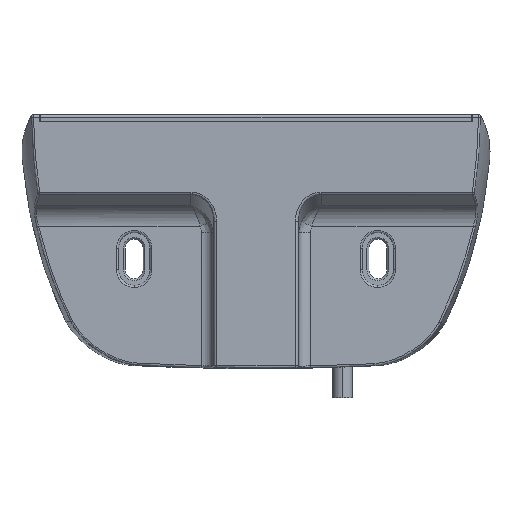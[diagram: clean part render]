
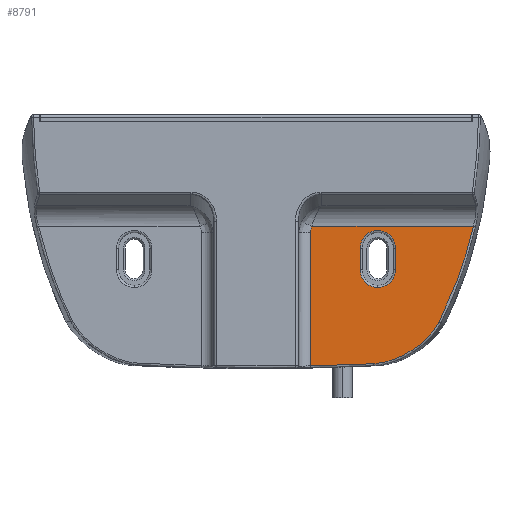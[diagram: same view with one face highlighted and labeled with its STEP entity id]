
A CAD part, front view. The second image highlights one B-rep face of the part: STEP entity #8791.
In plain terms, the highlighted planar face has unit normal (0, -1, 0).
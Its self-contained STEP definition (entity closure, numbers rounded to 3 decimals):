
#152 = VERTEX_POINT ( 'NONE', #15921 ) ;
#187 = EDGE_CURVE ( 'NONE', #15214, #19358, #1433, .T. ) ;
#207 = CARTESIAN_POINT ( 'NONE',  ( 14.005, -0.5, 0.569 ) ) ;
#286 = CARTESIAN_POINT ( 'NONE',  ( 13.897, -0.5, -34.446 ) ) ;
#366 = FACE_OUTER_BOUND ( 'NONE', #17671, .T. ) ;
#982 = CARTESIAN_POINT ( 'NONE',  ( 46.519, -0.5, -23.33 ) ) ;
#1054 = CARTESIAN_POINT ( 'NONE',  ( 45.665, -0.5, -24.809 ) ) ;
#1123 = CARTESIAN_POINT ( 'NONE',  ( 55.333, -0.5, 1.037 ) ) ;
#1138 = VERTEX_POINT ( 'NONE', #16881 ) ;
#1389 = B_SPLINE_CURVE_WITH_KNOTS ( 'NONE', 3,
 ( #5184, #16383, #13312, #5733, #18181, #10196, #16645, #18116, #14989, #4041, #13385, #17984, #8826, #13514, #8763, #8894, #5660, #1054, #19703, #982 ),
 .UNSPECIFIED., .F., .F.,
 ( 4, 2, 2, 2, 2, 2, 2, 2, 2, 4 ),
 ( 0., 0.003, 0.005, 0.006, 0.008, 0.01, 0.013, 0.015, 0.018, 0.02 ),
 .UNSPECIFIED. ) ;
#1433 = CIRCLE ( 'NONE', #1440, 4.5 ) ;
#1436 = CARTESIAN_POINT ( 'NONE',  ( 29.991, -0.5, -33.899 ) ) ;
#1440 = AXIS2_PLACEMENT_3D ( 'NONE', #11177, #12734, #12869 ) ;
#1842 = ORIENTED_EDGE ( 'NONE', *, *, #2117, .T. ) ;
#1964 = LINE ( 'NONE', #6319, #19766 ) ;
#2117 = EDGE_CURVE ( 'NONE', #19358, #1138, #1964, .T. ) ;
#2187 = EDGE_CURVE ( 'NONE', #10624, #9036, #20014, .T. ) ;
#2293 = ORIENTED_EDGE ( 'NONE', *, *, #13802, .T. ) ;
#2480 = B_SPLINE_CURVE_WITH_KNOTS ( 'NONE', 3,
 ( #5814, #8769, #16723, #10531, #5738, #1123 ),
 .UNSPECIFIED., .F., .F.,
 ( 4, 2, 4 ),
 ( 0., 0.013, 0.026 ),
 .UNSPECIFIED. ) ;
#2822 = CARTESIAN_POINT ( 'NONE',  ( 31., -0.5, -14.5 ) ) ;
#2836 = CARTESIAN_POINT ( 'NONE',  ( 24.629, -0.5, -34.153 ) ) ;
#2856 = VERTEX_POINT ( 'NONE', #2822 ) ;
#2977 = VECTOR ( 'NONE', #10229, 1000. ) ;
#3030 = PLANE ( 'NONE',  #11885 ) ;
#3570 = CARTESIAN_POINT ( 'NONE',  ( 26.5, -0.5, -10. ) ) ;
#3919 = CARTESIAN_POINT ( 'NONE',  ( 13.897, -0.5, -34.996 ) ) ;
#3982 = CIRCLE ( 'NONE', #7019, 4.5 ) ;
#4041 = CARTESIAN_POINT ( 'NONE',  ( 38.045, -0.5, -31.446 ) ) ;
#4381 = EDGE_CURVE ( 'NONE', #2856, #19485, #12521, .T. ) ;
#4522 = FACE_BOUND ( 'NONE', #8937, .T. ) ;
#4989 = CARTESIAN_POINT ( 'NONE',  ( 13.897, -0.5, 1.037 ) ) ;
#5117 = DIRECTION ( 'NONE',  ( -1., 0., 0. ) ) ;
#5184 = CARTESIAN_POINT ( 'NONE',  ( 29.991, -0.5, -33.899 ) ) ;
#5457 = ORIENTED_EDGE ( 'NONE', *, *, #2187, .T. ) ;
#5660 = CARTESIAN_POINT ( 'NONE',  ( 44.633, -0.5, -26.169 ) ) ;
#5733 = CARTESIAN_POINT ( 'NONE',  ( 33.338, -0.5, -33.369 ) ) ;
#5738 = CARTESIAN_POINT ( 'NONE',  ( 54.338, -0.5, -3.196 ) ) ;
#5814 = CARTESIAN_POINT ( 'NONE',  ( 46.519, -0.5, -23.33 ) ) ;
#5912 = CARTESIAN_POINT ( 'NONE',  ( 13.897, -0.5, -0.47 ) ) ;
#6297 = ORIENTED_EDGE ( 'NONE', *, *, #187, .T. ) ;
#6319 = CARTESIAN_POINT ( 'NONE',  ( 35.5, -0.5, -10. ) ) ;
#7019 = AXIS2_PLACEMENT_3D ( 'NONE', #17339, #15656, #18840 ) ;
#7059 = ORIENTED_EDGE ( 'NONE', *, *, #9411, .T. ) ;
#8099 = CARTESIAN_POINT ( 'NONE',  ( 29.991, -0.5, -33.899 ) ) ;
#8166 = ORIENTED_EDGE ( 'NONE', *, *, #8963, .T. ) ;
#8763 = CARTESIAN_POINT ( 'NONE',  ( 42.861, -0.5, -28.014 ) ) ;
#8769 = CARTESIAN_POINT ( 'NONE',  ( 48.503, -0.5, -19.455 ) ) ;
#8791 = ADVANCED_FACE ( 'NONE', ( #4522, #366 ), #3030, .T. ) ;
#8826 = CARTESIAN_POINT ( 'NONE',  ( 40.888, -0.5, -29.638 ) ) ;
#8894 = CARTESIAN_POINT ( 'NONE',  ( 44.065, -0.5, -26.81 ) ) ;
#8937 = EDGE_LOOP ( 'NONE', ( #6297, #1842, #10865, #19716, #12317 ) ) ;
#8963 = EDGE_CURVE ( 'NONE', #152, #18039, #12584, .T. ) ;
#9036 = VERTEX_POINT ( 'NONE', #286 ) ;
#9100 = CARTESIAN_POINT ( 'NONE',  ( 13.897, -0.5, 0.058 ) ) ;
#9261 = EDGE_CURVE ( 'NONE', #15724, #152, #2480, .T. ) ;
#9411 = EDGE_CURVE ( 'NONE', #18039, #10624, #19077, .T. ) ;
#10196 = CARTESIAN_POINT ( 'NONE',  ( 35.351, -0.5, -32.688 ) ) ;
#10229 = DIRECTION ( 'NONE',  ( 0., 0., 1. ) ) ;
#10531 = CARTESIAN_POINT ( 'NONE',  ( 53.121, -0.5, -7.348 ) ) ;
#10624 = VERTEX_POINT ( 'NONE', #5912 ) ;
#10713 = CARTESIAN_POINT ( 'NONE',  ( 35.5, -0.5, -4.5 ) ) ;
#10765 = DIRECTION ( 'NONE',  ( 0., 0., -1. ) ) ;
#10865 = ORIENTED_EDGE ( 'NONE', *, *, #18349, .T. ) ;
#10917 = VERTEX_POINT ( 'NONE', #8099 ) ;
#11149 = CARTESIAN_POINT ( 'NONE',  ( 13.897, -0.5, -0.47 ) ) ;
#11161 = DIRECTION ( 'NONE',  ( 0., 0., -1. ) ) ;
#11177 = CARTESIAN_POINT ( 'NONE',  ( 31., -0.5, -4.5 ) ) ;
#11885 = AXIS2_PLACEMENT_3D ( 'NONE', #15236, #20066, #10765 ) ;
#12317 = ORIENTED_EDGE ( 'NONE', *, *, #19921, .T. ) ;
#12487 = EDGE_CURVE ( 'NONE', #10917, #15724, #1389, .T. ) ;
#12521 = CIRCLE ( 'NONE', #15738, 4.5 ) ;
#12584 = LINE ( 'NONE', #4989, #17653 ) ;
#12734 = DIRECTION ( 'NONE',  ( 0., 1., 0. ) ) ;
#12869 = DIRECTION ( 'NONE',  ( 0., 0., -1. ) ) ;
#13312 = CARTESIAN_POINT ( 'NONE',  ( 31.687, -0.5, -33.734 ) ) ;
#13385 = CARTESIAN_POINT ( 'NONE',  ( 38.777, -0.5, -31.031 ) ) ;
#13514 = CARTESIAN_POINT ( 'NONE',  ( 42.219, -0.5, -28.582 ) ) ;
#13802 = EDGE_CURVE ( 'NONE', #9036, #10917, #14940, .T. ) ;
#13937 = CARTESIAN_POINT ( 'NONE',  ( 13.897, -0.5, -34.446 ) ) ;
#13954 = ORIENTED_EDGE ( 'NONE', *, *, #12487, .T. ) ;
#14249 = DIRECTION ( 'NONE',  ( 0., 1., 0. ) ) ;
#14807 = DIRECTION ( 'NONE',  ( 0., 0., -1. ) ) ;
#14940 = B_SPLINE_CURVE_WITH_KNOTS ( 'NONE', 3,
 ( #13937, #20084, #2836, #1436 ),
 .UNSPECIFIED., .F., .F.,
 ( 4, 4 ),
 ( 0., 0.016 ),
 .UNSPECIFIED. ) ;
#14957 = CARTESIAN_POINT ( 'NONE',  ( 26.5, -0.5, -4.5 ) ) ;
#14989 = CARTESIAN_POINT ( 'NONE',  ( 36.911, -0.5, -32.012 ) ) ;
#15214 = VERTEX_POINT ( 'NONE', #17646 ) ;
#15236 = CARTESIAN_POINT ( 'NONE',  ( 250., -0.5, 10.315 ) ) ;
#15656 = DIRECTION ( 'NONE',  ( 0., 1., 0. ) ) ;
#15724 = VERTEX_POINT ( 'NONE', #19413 ) ;
#15738 = AXIS2_PLACEMENT_3D ( 'NONE', #17248, #14249, #11161 ) ;
#15872 = VECTOR ( 'NONE', #14807, 1000. ) ;
#15921 = CARTESIAN_POINT ( 'NONE',  ( 55.333, -0.5, 1.037 ) ) ;
#16310 = CARTESIAN_POINT ( 'NONE',  ( 14.214, -0.5, 1.037 ) ) ;
#16383 = CARTESIAN_POINT ( 'NONE',  ( 30.848, -0.5, -33.858 ) ) ;
#16645 = CARTESIAN_POINT ( 'NONE',  ( 35.748, -0.5, -32.529 ) ) ;
#16723 = CARTESIAN_POINT ( 'NONE',  ( 50.202, -0.5, -15.477 ) ) ;
#16845 = CARTESIAN_POINT ( 'NONE',  ( 14.214, -0.5, 1.037 ) ) ;
#16881 = CARTESIAN_POINT ( 'NONE',  ( 35.5, -0.5, -10. ) ) ;
#16998 = ORIENTED_EDGE ( 'NONE', *, *, #9261, .T. ) ;
#17080 = DIRECTION ( 'NONE',  ( 0., 0., -1. ) ) ;
#17248 = CARTESIAN_POINT ( 'NONE',  ( 31., -0.5, -10. ) ) ;
#17339 = CARTESIAN_POINT ( 'NONE',  ( 31., -0.5, -10. ) ) ;
#17646 = CARTESIAN_POINT ( 'NONE',  ( 26.5, -0.5, -4.5 ) ) ;
#17653 = VECTOR ( 'NONE', #5117, 1000. ) ;
#17671 = EDGE_LOOP ( 'NONE', ( #5457, #2293, #13954, #16998, #8166, #7059 ) ) ;
#17984 = CARTESIAN_POINT ( 'NONE',  ( 40.199, -0.5, -30.126 ) ) ;
#18039 = VERTEX_POINT ( 'NONE', #16310 ) ;
#18116 = CARTESIAN_POINT ( 'NONE',  ( 36.527, -0.5, -32.191 ) ) ;
#18181 = CARTESIAN_POINT ( 'NONE',  ( 34.15, -0.5, -33.126 ) ) ;
#18349 = EDGE_CURVE ( 'NONE', #1138, #2856, #3982, .T. ) ;
#18840 = DIRECTION ( 'NONE',  ( 0., 0., -1. ) ) ;
#19077 =( BOUNDED_CURVE ( )  B_SPLINE_CURVE ( 3, ( #16845, #207, #9100, #11149 ),
 .UNSPECIFIED., .F., .F. ) 
 B_SPLINE_CURVE_WITH_KNOTS ( ( 4, 4 ),
 ( 1.031, 1.495 ),
 .UNSPECIFIED. ) 
 CURVE ( )  GEOMETRIC_REPRESENTATION_ITEM ( )  RATIONAL_B_SPLINE_CURVE ( ( 1., 0.982, 0.982, 1. ) ) 
 REPRESENTATION_ITEM ( '' )  );
#19358 = VERTEX_POINT ( 'NONE', #10713 ) ;
#19413 = CARTESIAN_POINT ( 'NONE',  ( 46.519, -0.5, -23.33 ) ) ;
#19485 = VERTEX_POINT ( 'NONE', #3570 ) ;
#19563 = LINE ( 'NONE', #14957, #2977 ) ;
#19703 = CARTESIAN_POINT ( 'NONE',  ( 46.13, -0.5, -24.091 ) ) ;
#19716 = ORIENTED_EDGE ( 'NONE', *, *, #4381, .T. ) ;
#19766 = VECTOR ( 'NONE', #17080, 1000. ) ;
#19921 = EDGE_CURVE ( 'NONE', #19485, #15214, #19563, .T. ) ;
#20014 = LINE ( 'NONE', #3919, #15872 ) ;
#20066 = DIRECTION ( 'NONE',  ( 0., -1., 0. ) ) ;
#20084 = CARTESIAN_POINT ( 'NONE',  ( 19.264, -0.5, -34.336 ) ) ;
